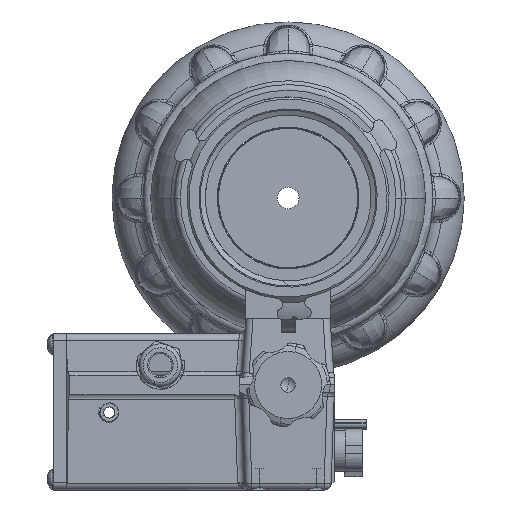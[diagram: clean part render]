
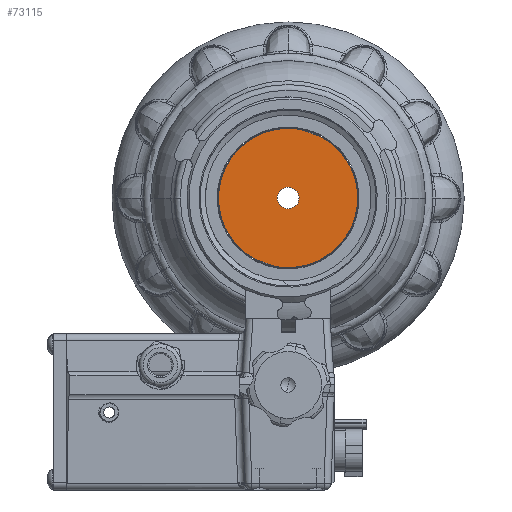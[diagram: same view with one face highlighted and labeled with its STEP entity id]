
A CAD part, left-side view. The second image highlights one B-rep face of the part: STEP entity #73115.
In plain terms, the highlighted planar face has unit normal (1, 0, 0).
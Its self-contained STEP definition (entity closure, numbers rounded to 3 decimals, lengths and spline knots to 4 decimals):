
#3530 = CIRCLE ( 'NONE', #44826, 0.1925 ) ;
#4861 = ORIENTED_EDGE ( 'NONE', *, *, #49287, .F. ) ;
#14303 = DIRECTION ( 'NONE',  ( 0., 0.088, -0.996 ) ) ;
#15046 = DIRECTION ( 'NONE',  ( -1., 0., 0. ) ) ;
#17286 = DIRECTION ( 'NONE',  ( 1., 0., 0. ) ) ;
#19151 = VERTEX_POINT ( 'NONE', #86695 ) ;
#21108 = DIRECTION ( 'NONE',  ( 0., 0.088, -0.996 ) ) ;
#21893 = ORIENTED_EDGE ( 'NONE', *, *, #68131, .F. ) ;
#22204 = ORIENTED_EDGE ( 'NONE', *, *, #40834, .F. ) ;
#22229 = AXIS2_PLACEMENT_3D ( 'NONE', #45955, #89230, #21108 ) ;
#22438 = AXIS2_PLACEMENT_3D ( 'NONE', #33342, #92230, #108463 ) ;
#24561 = AXIS2_PLACEMENT_3D ( 'NONE', #68120, #17286, #93965 ) ;
#29562 = FACE_BOUND ( 'NONE', #45416, .T. ) ;
#33342 = CARTESIAN_POINT ( 'NONE',  ( 7.5049, 0., 0. ) ) ;
#39704 = VERTEX_POINT ( 'NONE', #93049 ) ;
#40834 = EDGE_CURVE ( 'NONE', #39704, #72646, #103992, .T. ) ;
#44826 = AXIS2_PLACEMENT_3D ( 'NONE', #96786, #46083, #104887 ) ;
#45416 = EDGE_LOOP ( 'NONE', ( #58132, #21893 ) ) ;
#45955 = CARTESIAN_POINT ( 'NONE',  ( 7.5049, 0., 0. ) ) ;
#46083 = DIRECTION ( 'NONE',  ( 1., 0., 0. ) ) ;
#49287 = EDGE_CURVE ( 'NONE', #72646, #39704, #68977, .T. ) ;
#57437 = CIRCLE ( 'NONE', #22438, 0.1925 ) ;
#58132 = ORIENTED_EDGE ( 'NONE', *, *, #73645, .F. ) ;
#63515 = EDGE_LOOP ( 'NONE', ( #4861, #22204 ) ) ;
#67276 = CARTESIAN_POINT ( 'NONE',  ( 7.5049, 0.1082, -1.2227 ) ) ;
#68120 = CARTESIAN_POINT ( 'NONE',  ( 7.5049, -1.2227, -0.1082 ) ) ;
#68131 = EDGE_CURVE ( 'NONE', #19151, #85471, #3530, .T. ) ;
#68977 = CIRCLE ( 'NONE', #105393, 1.2275 ) ;
#72646 = VERTEX_POINT ( 'NONE', #67276 ) ;
#73115 = ADVANCED_FACE ( 'NONE', ( #29562, #99812 ), #101389, .T. ) ;
#73645 = EDGE_CURVE ( 'NONE', #85471, #19151, #57437, .T. ) ;
#85471 = VERTEX_POINT ( 'NONE', #87610 ) ;
#86695 = CARTESIAN_POINT ( 'NONE',  ( 7.5049, 0.017, -0.1918 ) ) ;
#87610 = CARTESIAN_POINT ( 'NONE',  ( 7.5049, -0.017, 0.1918 ) ) ;
#89230 = DIRECTION ( 'NONE',  ( -1., 0., 0. ) ) ;
#92230 = DIRECTION ( 'NONE',  ( 1., 0., 0. ) ) ;
#93049 = CARTESIAN_POINT ( 'NONE',  ( 7.5049, -0.1082, 1.2227 ) ) ;
#93965 = DIRECTION ( 'NONE',  ( 0., -0.088, 0.996 ) ) ;
#96786 = CARTESIAN_POINT ( 'NONE',  ( 7.5049, 0., 0. ) ) ;
#99812 = FACE_OUTER_BOUND ( 'NONE', #63515, .T. ) ;
#100237 = CARTESIAN_POINT ( 'NONE',  ( 7.5049, 0., 0. ) ) ;
#101389 = PLANE ( 'NONE',  #24561 ) ;
#103992 = CIRCLE ( 'NONE', #22229, 1.2275 ) ;
#104887 = DIRECTION ( 'NONE',  ( 0., -0.088, 0.996 ) ) ;
#105393 = AXIS2_PLACEMENT_3D ( 'NONE', #100237, #15046, #14303 ) ;
#108463 = DIRECTION ( 'NONE',  ( 0., -0.088, 0.996 ) ) ;
